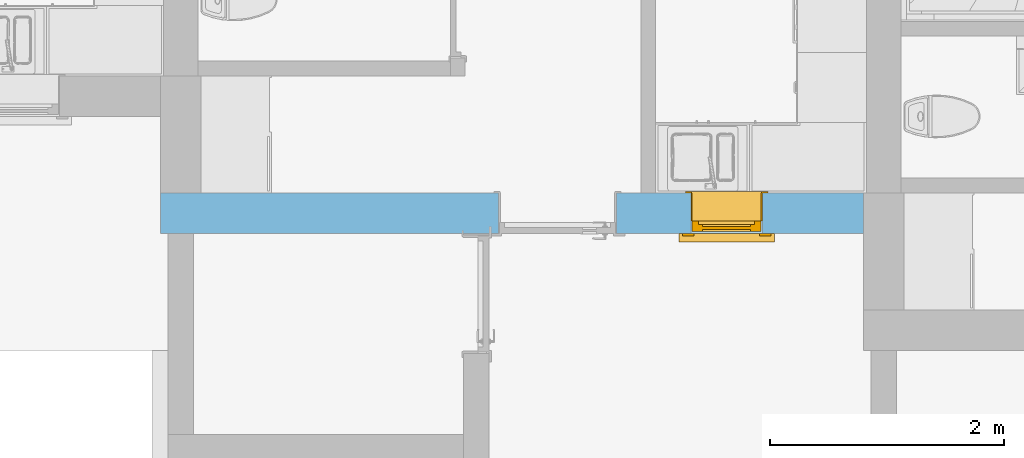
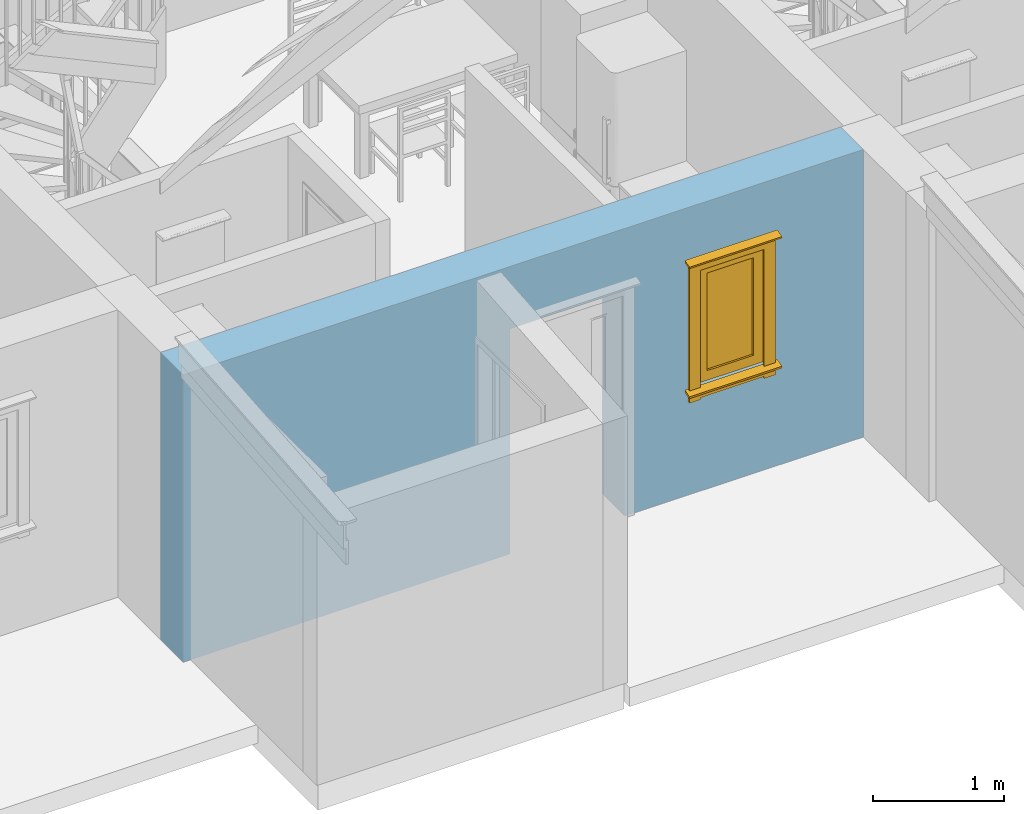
# One storey, part 14 of 65: 1 window, 2 openings, plus 1 element that does not belong to this part.
"""IFC2X3 building model written with IfcOpenShell, lengths in millimetres."""

from ifc_helpers import new_model, entity, si_unit, converted_unit, direction, frame, frame_2d, origin, place, context, subcontext, project, spatial, rectangle, extrude, faceted_brep, source, transform, mapped, material, material_list, layer, layer_set, layer_usage, type_object, type_shapes, element, fill, save


model = new_model("IFC2X3")

# Units and contexts
model_context = context("Model", 3, precision=0.01, world=origin(), true_north=direction((0.0, 1.0)))
body_context = subcontext(model_context, "Body", "Model", "MODEL_VIEW")
ifc_project = project(units=[si_unit("LENGTHUNIT", "METRE", prefix="MILLI"), si_unit("AREAUNIT", "SQUARE_METRE"), si_unit("VOLUMEUNIT", "CUBIC_METRE"), converted_unit("PLANEANGLEUNIT", "DEGREE", entity("IfcPlaneAngleMeasure", 0.017453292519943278), si_unit("PLANEANGLEUNIT", "RADIAN"), dimensions=[0, 0, 0, 0, 0, 0, 0])], contexts=[model_context])

# Site, building, storey
site_placement = place(None, origin())
site = spatial("IfcSite", under=ifc_project, at=site_placement, Name="Default", CompositionType="ELEMENT")
building_placement = place(site_placement, origin())
building = spatial("IfcBuilding", under=site, at=building_placement, CompositionType="ELEMENT")
storey_placement = place(building_placement, origin())
storey = spatial("IfcBuildingStorey", under=building, at=storey_placement, Name="Et. 1", CompositionType="ELEMENT", Elevation=0.0)

# Wall, openings, window
ifc_material_1 = material(Name="Vegg - Stående Kledning_smal - HVIT")
ifc_layer_1 = layer(ifc_material_1, 19.0)
ifc_material_2 = material(Name="Vegg - Utlekting")
ifc_layer_2 = layer(ifc_material_2, 36.0)
ifc_layer_3 = layer(ifc_material_2, 23.0)
ifc_material_3 = material(Name="Vegg - Gips - GU")
ifc_layer_4 = layer(ifc_material_3, 9.0)
ifc_material_4 = material(Name="Vegg - Stender - Isolert")
ifc_layer_5 = layer(ifc_material_4, 198.0)
ifc_material_5 = material(Name="Vegg - Påforing - Isolert")
ifc_layer_6 = layer(ifc_material_5, 48.0)
ifc_material_6 = material(Name="Vegg - Gips - Hvit")
ifc_layer_7 = layer(ifc_material_6, 13.000000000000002)
ifc_layer_set = layer_set([ifc_layer_1, ifc_layer_2, ifc_layer_3, ifc_layer_4, ifc_layer_5, ifc_layer_6, ifc_layer_7], Name="Basic Wall:23-Kv(sm)TIG-19_36_23_9_198_48_13")
ifc_layer_usage = layer_usage(ifc_layer_set, "AXIS2", "NEGATIVE", 173.0)
wall_type = type_object("IfcWallType", Name="Basic Wall:23-Kv(sm)TIG-19_36_23_9_198_48_13", PredefinedType="STANDARD", material=ifc_layer_set)
wall_placement = place(storey_placement, frame((22005.00958675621, 10581.180957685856, 0.0), z_axis=(0.0, 0.0, 1.0), x_axis=(-1.0, 0.0, 0.0)))
wall = element("IfcWallStandardCase", 1, at=wall_placement, inside=storey, type_object=wall_type, material=ifc_layer_usage, Name="Basic Wall:23-Kv(sm)TIG-19_36_23_9_198_48_13", context=body_context, shape_type="SweptSolid", body=[
    extrude(rectangle(XDim=6000.00000000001, YDim=345.9999999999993, at=frame_2d((3000.000000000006, 4.405364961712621e-13), x_axis=(1.0, 0.0))), origin(), (0.0, 0.0, 1.0), 2681.000000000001),
])
opening_1_placement = place(wall_placement, frame((2106.499999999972, -173.0, 0.0)))
element("IfcOpeningElement", 2, at=opening_1_placement, cuts=wall, Name="YD 1 Glassfelt omramming:10x21M:1", ObjectType="Opening", context=body_context, shape_type="SweptSolid", body=[
    extrude(rectangle(XDim=1010.0000000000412, YDim=2100.000000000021, at=frame_2d((1050.0000000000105, 505.0000000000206), x_axis=(0.0, 1.0))), frame((0.0, 0.0, 0.0), z_axis=(0.0, 1.0, 0.0), x_axis=(0.0, 0.0, 1.0)), (0.0, 0.0, 1.0), 346.0),
])
opening_2_placement = place(wall_placement, frame((863.0, -173.0, 990.0)))
opening_2 = element("IfcOpeningElement", 3, at=opening_2_placement, cuts=wall, Name="Hel Rute Åpningsvindu m omramming:6x11M:1", ObjectType="Opening", context=body_context, shape_type="SweptSolid", body=[
    extrude(rectangle(XDim=609.9999999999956, YDim=1109.9999999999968, at=frame_2d((554.9999999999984, 304.9999999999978), x_axis=(0.0, -1.0))), frame((0.0, 0.0, 0.0), z_axis=(0.0, 1.0, 0.0), x_axis=(0.0, 0.0, 1.0)), (0.0, 0.0, 1.0), 346.0),
])
ifc_material_7 = material(Name="Omramming")
ifc_material_8 = material(Name="Karm")
ifc_material_9 = material(Name="Glass - Klart")
ifc_material_list = material_list([ifc_material_7, ifc_material_8, ifc_material_9])
window_style = type_object("IfcWindowStyle", Name="Hel Rute Åpningsvindu m omramming:6x11M", ConstructionType="NOTDEFINED", OperationType="NOTDEFINED", ParameterTakesPrecedence=False, Sizeable=False, material=ifc_material_list)
shared_shape = source(origin(), body_context, "Body", "Brep", [
    faceted_brep([(-73.0, 368.0, 1189.1537012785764), (25.0, 368.0, 1189.1537012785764), (25.0, 368.0, -5.894882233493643), (-73.0, 368.0, -5.894882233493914), (585.0, 346.0, -120.0), (683.0, 346.0, -120.0), (683.0, 346.0, -22.776075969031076), (713.0, 346.0, -22.77607596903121), (713.0, 346.0, 0.0), (683.0, 346.0, 0.0), (683.0, 346.0, 1189.1537012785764), (585.0, 346.0, 1189.1537012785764), (585.0, 346.0, 0.0), (25.0, 346.0, 0.0), (25.0, 346.0, 1189.1537012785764), (-73.0, 346.0, 1189.1537012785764), (-73.0, 346.0, 0.0), (-103.0, 346.0, 0.0), (-103.0, 346.0, -22.776075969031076), (-73.0, 346.0, -22.776075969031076), (-73.0, 346.0, -120.0), (25.0, 346.0, -120.0), (25.0, 346.0, -22.776075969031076), (585.0, 346.0, -22.776075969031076), (683.0, 368.0, 1189.1537012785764), (585.0, 368.0, 1189.1537012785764), (683.0, 368.0, -5.894882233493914), (585.0, 368.0, -120.0), (683.0, 368.0, -120.0), (585.0, 368.0, -5.894882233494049), (-73.0, 368.0, -120.0), (25.0, 368.0, -120.0), (-103.0, 413.6148078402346, -40.89340912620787), (-103.0, 419.3088268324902, -19.64304094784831), (713.0, 413.6148078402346, -40.89340912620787), (713.0, 419.3088268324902, -19.64304094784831), (683.0, 368.0, -28.67095820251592), (585.0, 368.0, -28.670958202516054), (25.0, 368.0, -28.67095820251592), (-73.0, 368.0, -28.670958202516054)], [[[0, 1, 2, 3]], [[4, 5, 6, 7, 8, 9, 10, 11, 12, 13, 14, 15, 16, 17, 18, 19, 20, 21, 22, 23]], [[24, 25, 11, 10]], [[24, 10, 9, 26]], [[27, 28, 5, 4]], [[11, 25, 29, 12]], [[1, 0, 15, 14]], [[1, 14, 13, 2]], [[30, 31, 21, 20]], [[15, 0, 3, 16]], [[32, 18, 17, 33]], [[34, 35, 8, 7]], [[18, 32, 34, 7, 6, 36, 37, 23, 22, 38, 39, 19]], [[33, 17, 16, 3, 2, 13, 12, 29, 26, 9, 8, 35]], [[32, 33, 35, 34]], [[30, 20, 19, 39]], [[21, 31, 38, 22]], [[27, 4, 23, 37]], [[5, 28, 36, 6]], [[31, 30, 39, 38]], [[25, 24, 26, 29]], [[28, 27, 37, 36]]]),
    faceted_brep([(713.0, 413.52687511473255, 1170.8011105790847), (713.0, 418.4444369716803, 1189.1537012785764), (713.0, 346.0, 1208.5651296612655), (713.0, 346.0, 1188.8948822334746), (-103.0, 413.52687511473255, 1170.8011105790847), (-103.0, 346.0, 1188.8948822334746), (-103.0, 346.0, 1208.5651296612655), (-103.0, 418.4444369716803, 1189.1537012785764)], [[[0, 1, 2, 3]], [[4, 5, 6, 7]], [[1, 0, 4, 7]], [[2, 1, 7, 6]], [[3, 2, 6, 5]], [[0, 3, 5, 4]]]),
    faceted_brep([(25.0, 368.0, 1183.0), (585.0, 368.0, 1183.0), (585.0, 368.0, 1085.0), (25.0, 368.0, 1085.0), (25.0, 346.0, 1183.0), (25.0, 346.0, 1085.0), (585.0, 346.0, 1085.0), (585.0, 346.0, 1183.0)], [[[0, 1, 2, 3]], [[4, 5, 6, 7]], [[1, 0, 4, 7]], [[2, 1, 7, 6]], [[3, 2, 6, 5]], [[0, 3, 5, 4]]]),
    faceted_brep([(585.0, 368.0, -30.0), (25.0, 368.0, -30.0), (25.0, 346.0, -30.0), (585.0, 346.0, -30.0), (585.0, 368.0, -102.0), (585.0, 346.0, -102.0), (25.0, 368.0, -102.0), (25.0, 346.0, -102.0)], [[[0, 1, 2, 3]], [[4, 0, 3, 5]], [[6, 4, 5, 7]], [[1, 6, 7, 2]], [[2, 7, 5, 3]], [[1, 0, 4, 6]]]),
    faceted_brep([(100.0, 271.0, 100.0), (100.0, 331.0, 100.0), (100.0, 331.0, 1010.0), (100.0, 271.0, 1010.0), (50.0, 331.0, 50.0), (50.0, 271.0, 50.0), (50.0, 271.0, 1060.0), (50.0, 331.0, 1060.0), (510.0, 331.0, 1010.0), (510.0, 271.0, 1010.0), (560.0, 271.0, 1060.0), (560.0, 331.0, 1060.0), (510.0, 331.0, 100.0), (510.0, 271.0, 100.0), (560.0, 271.0, 50.0), (560.0, 331.0, 50.0)], [[[0, 1, 2, 3]], [[4, 5, 6, 7]], [[3, 2, 8, 9]], [[7, 6, 10, 11]], [[9, 8, 12, 13]], [[11, 10, 14, 15]], [[13, 12, 1, 0]], [[3, 9, 13, 0], [5, 14, 10, 6]], [[15, 14, 5, 4]], [[7, 11, 15, 4], [1, 12, 8, 2]]], outer=[[True], [True], [True], [True], [True], [True], [True], [False, True], [True], [True, False]]),
    faceted_brep([(510.0, 288.4999999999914, 100.0), (510.0, 288.49999999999, 1010.0), (100.0, 288.49999999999, 1010.0), (100.0, 288.4999999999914, 100.0), (510.0, 313.4999999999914, 100.0), (100.0, 313.4999999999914, 100.0), (100.0, 313.49999999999, 1010.0), (510.0, 313.49999999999, 1010.0)], [[[0, 1, 2, 3]], [[4, 5, 6, 7]], [[1, 0, 4, 7]], [[2, 1, 7, 6]], [[3, 2, 6, 5]], [[0, 3, 5, 4]]]),
    faceted_brep([(600.0, 239.0, 10.0), (600.0, 331.0, 10.0), (600.0, 331.0, 1100.0), (600.0, 239.0, 1100.0), (560.0, 331.0, 1060.0), (560.0, 331.0, 50.0), (560.0, 271.0, 50.0), (560.0, 271.0, 1060.0), (10.0, 331.0, 1100.0), (10.0, 239.0, 1100.0), (50.0, 331.0, 1060.0), (50.0, 271.0, 1060.0), (10.0, 331.0, 10.0), (10.0, 239.0, 10.0), (50.0, 331.0, 50.0), (50.0, 271.0, 50.0), (65.0, 239.0, 65.0), (65.0, 239.0, 1045.0), (545.0, 239.0, 1045.0), (545.0, 239.0, 65.0), (65.0, 271.0, 65.0), (65.0, 271.0, 1045.0), (545.0, 271.0, 1045.0), (545.0, 271.0, 65.0)], [[[0, 1, 2, 3]], [[4, 5, 6, 7]], [[3, 2, 8, 9]], [[10, 4, 7, 11]], [[9, 8, 12, 13]], [[14, 10, 11, 15]], [[2, 1, 12, 8], [5, 4, 10, 14]], [[1, 0, 13, 12]], [[0, 3, 9, 13], [16, 17, 18, 19]], [[5, 14, 15, 6]], [[16, 20, 21, 17]], [[17, 21, 22, 18]], [[18, 22, 23, 19]], [[20, 16, 19, 23]], [[7, 6, 15, 11], [21, 20, 23, 22]]]),
    faceted_brep([(610.0, 239.0, 1110.0), (610.0, 239.0, 0.0), (0.0, 239.0, 0.0), (0.0, 239.0, 1110.0), (10.0, 239.0, 10.0), (600.0, 239.0, 10.0), (600.0, 239.0, 1100.0), (10.0, 239.0, 1100.0), (610.0, 0.0, 1110.0), (0.0, 0.0, 1110.0), (0.0, 0.0, 0.0), (610.0, 0.0, 0.0), (10.0, 0.0, 10.0), (10.0, 0.0, 1100.0), (600.0, 0.0, 1100.0), (600.0, 0.0, 10.0)], [[[0, 1, 2, 3], [4, 5, 6, 7]], [[8, 9, 10, 11], [12, 13, 14, 15]], [[1, 0, 8, 11]], [[2, 1, 11, 10]], [[3, 2, 10, 9]], [[0, 3, 9, 8]], [[5, 4, 12, 15]], [[6, 5, 15, 14]], [[7, 6, 14, 13]], [[4, 7, 13, 12]]]),
    faceted_brep([(5.0, -12.0, 1105.0), (5.0, 0.0, 1105.0), (605.0, 0.0, 1105.0), (605.0, -12.0, 1105.0), (-47.0, 0.0, 1157.0), (-47.0, -12.0, 1157.0), (657.0, -12.0, 1157.0), (657.0, 0.0, 1157.0), (605.0, 0.0, 5.0), (605.0, -12.0, 5.0), (657.0, -12.0, -47.0), (657.0, 0.0, -47.0), (5.0, 0.0, 5.0), (5.0, -12.0, 5.0), (-47.0, -12.0, -47.0), (-47.0, 0.0, -47.0)], [[[0, 1, 2, 3]], [[4, 5, 6, 7]], [[3, 2, 8, 9]], [[7, 6, 10, 11]], [[9, 8, 12, 13]], [[11, 10, 14, 15]], [[7, 11, 15, 4], [1, 12, 8, 2]], [[13, 12, 1, 0]], [[3, 9, 13, 0], [5, 14, 10, 6]], [[15, 14, 5, 4]]], outer=[[True], [True], [True], [True], [True], [True], [True, False], [True], [False, True], [True]]),
])
type_shapes(window_style, [shared_shape])
window_placement = place(opening_2_placement, origin())
window = element("IfcWindow", 4, at=window_placement, inside=storey, type_object=window_style, material=ifc_material_list, Name="Hel Rute Åpningsvindu m omramming:6x11M", OverallHeight=1109.9999999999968, OverallWidth=609.9999999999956, context=body_context, shape_type="MappedRepresentation", body=[
    mapped(shared_shape, transform((0.0, 0.0, 0.0), scale=1.0)),
])
fill(opening_2, window)

save(model, "model.ifc")
